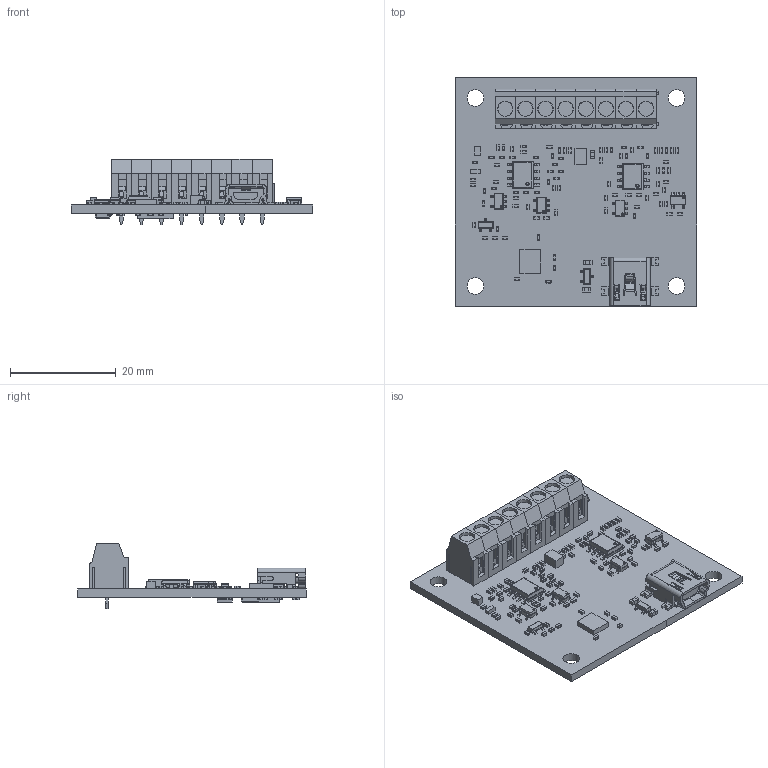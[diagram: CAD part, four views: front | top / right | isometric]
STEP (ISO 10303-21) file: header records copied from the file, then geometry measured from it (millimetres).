
FILE_DESCRIPTION(('Open CASCADE Model'),'2;1');
FILE_NAME('Open CASCADE Shape Model','2021-02-05T12:53:35',('Author'),( 'Open CASCADE'),'Open CASCADE STEP processor 6.8','Open CASCADE 6.8' ,'Unknown');
FILE_SCHEMA(('AUTOMOTIVE_DESIGN { 1 0 10303 214 1 1 1 1 }'));
Length unit declared in the file: millimetre
Products named in the file (160): PCB; Board; O1; User_Library-ABM8G; R46; 5178808192; Extruded; 5178808384; R45; C23; U12; User_Library-SOT-23-1; User_Library-SOT-23-1_1_1; User_Library-SOT-23-1_2_1; User_Library-SOT-23-1_3_1; User_Library-SOT-23-1_4_1; User_Library-SOT-23-1_5_1; R54; R53; R52; 5178808768; 5178808576; R51; C44; U2; C43; R50; R49; R48; R47; R44; R43; C6; C19; R16; R15; C18; C17; C16; C15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
Assembly tree (361 placements, depth 4):
  PCB
    Board
    O1
      User_Library-ABM8G
    R46
      5178808192
        Extruded
      5178808384
        Extruded
    R45
      5178808192
        Extruded
      5178808384
        Extruded
    C23
      5178808192
        Extruded
      5178808384
        Extruded
    U12
      User_Library-SOT-23-1
        User_Library-SOT-23-1_1_1
        User_Library-SOT-23-1_2_1
        User_Library-SOT-23-1_3_1
        User_Library-SOT-23-1_4_1
        User_Library-SOT-23-1_5_1
    R54
      5178808384
        Extruded
      5178808192
        Extruded
    R53
      5178808384
        Extruded
      5178808192
        Extruded
    R52
      5178808768
        Extruded
      5178808576
        Extruded
    R51
      5178808768
        Extruded
      5178808576
        Extruded
    C44
      5178808384
        Extruded
      5178808192
        Extruded
    U2
      User_Library-SOT-23-1
        User_Library-SOT-23-1_1_1
        User_Library-SOT-23-1_2_1
        User_Library-SOT-23-1_3_1
        User_Library-SOT-23-1_4_1
        User_Library-SOT-23-1_5_1
    C43
      5178808768
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Bounding box: 45.72 x 43.18 x 12.31 mm (x, y, z)
Volume: 4986.1 mm3; surface area: 8641.3 mm2
Topology: 267 solids, 267 shells, 3553 faces, 8482 edges, 5452 vertices
Faces by surface type: plane 2869, cylinder 535, bspline 127, cone 16, torus 4, sphere 2
Full cylindrical faces by diameter (mm): 1 x2, 1.321 x8, 3.175 x4
Entity records: 40574 total; most frequent: CARTESIAN_POINT 9678, DIRECTION 5231, ORIENTED_EDGE 5082, EDGE_CURVE 2541, LINE 1833, VECTOR 1833, AXIS2_PLACEMENT_3D 1699, VERTEX_POINT 1597
